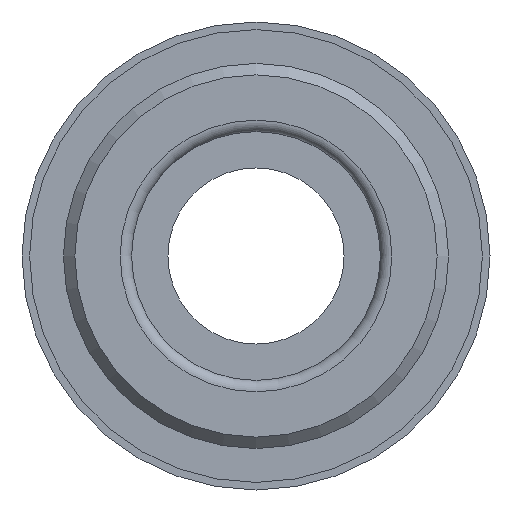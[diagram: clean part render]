
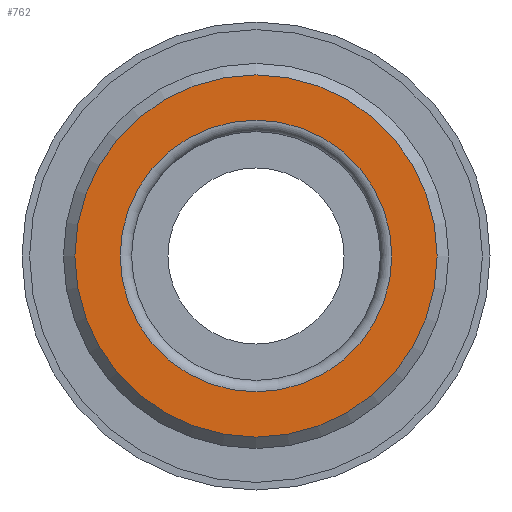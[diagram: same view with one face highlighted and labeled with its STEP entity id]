
A CAD part, left-side view. The second image highlights one B-rep face of the part: STEP entity #762.
In plain terms, the highlighted planar face has unit normal (-1, 0, 0).
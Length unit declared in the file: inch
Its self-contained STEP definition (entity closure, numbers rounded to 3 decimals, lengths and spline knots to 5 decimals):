
#67=PLANE('',#836);
#235=ORIENTED_EDGE('',*,*,#439,.F.);
#236=ORIENTED_EDGE('',*,*,#440,.T.);
#439=EDGE_CURVE('',#536,#536,#591,.T.);
#440=EDGE_CURVE('',#537,#537,#592,.T.);
#536=VERTEX_POINT('',#1251);
#537=VERTEX_POINT('',#1253);
#591=CIRCLE('',#837,0.356);
#592=CIRCLE('',#838,0.267);
#624=EDGE_LOOP('',(#235));
#625=EDGE_LOOP('',(#236));
#690=FACE_BOUND('',#624,.T.);
#691=FACE_BOUND('',#625,.T.);
#762=ADVANCED_FACE('',(#690,#691),#67,.F.);
#836=AXIS2_PLACEMENT_3D('',#1249,#957,#958);
#837=AXIS2_PLACEMENT_3D('',#1250,#959,#960);
#838=AXIS2_PLACEMENT_3D('',#1252,#961,#962);
#957=DIRECTION('',(1.,0.,0.));
#958=DIRECTION('',(0.,0.,-1.));
#959=DIRECTION('',(1.,0.,0.));
#960=DIRECTION('',(0.,0.,-1.));
#961=DIRECTION('',(1.,0.,0.));
#962=DIRECTION('',(0.,0.,-1.));
#1249=CARTESIAN_POINT('',(-0.0225,0.,0.));
#1250=CARTESIAN_POINT('',(-0.0225,0.,0.));
#1251=CARTESIAN_POINT('',(-0.0225,0.,-0.356));
#1252=CARTESIAN_POINT('',(-0.0225,0.,0.));
#1253=CARTESIAN_POINT('',(-0.0225,0.,-0.267));
